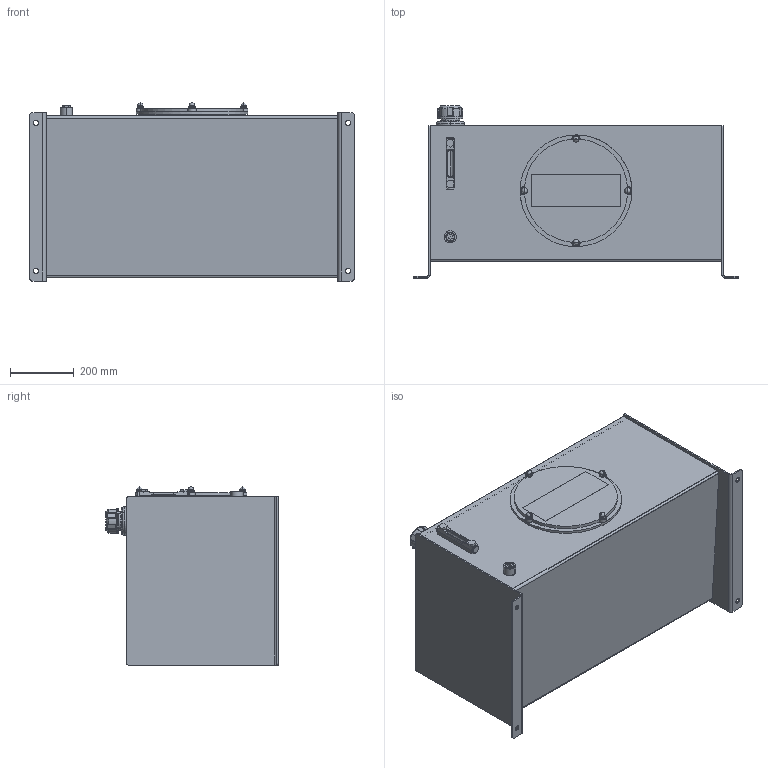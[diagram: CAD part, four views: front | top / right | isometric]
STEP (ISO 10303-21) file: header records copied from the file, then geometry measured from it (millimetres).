
FILE_DESCRIPTION (( 'STEP AP214' ), '1' );
FILE_NAME ('RDIN040-CFA.STEP', '2018-02-07T12:17:17', ( 'Windows User' ), ( '' ), 'SwSTEP 2.0', 'SolidWorks 2017', '' );
FILE_SCHEMA (( 'AUTOMOTIVE_DESIGN' ));
Length unit declared in the file: inch
Products named in the file (20): RDIN040-CFA; REC-M350C-4; BHS8100-15300-P_91280A634; RDIN040-CFA-REND; FB-S-W; RHJ-PLUG-016; RDIN040-CFA-TOP; RDIN040-CFA-BODY_RJIC020-BODY; FB-H008W; QSTSBUR00080008; Weld Riser; WFZM010; 8162-008-3_4534K45; FB-F008_FB-F-008; PLLG-05T; FB-C-H_FB-H008W; REC-M350K; RDIN040-CFA-LEND; S12; RHJ-PLUG-200
Assembly tree (26 placements, depth 3):
  RDIN040-CFA
    RDIN040-CFA-BODY_RJIC020-BODY
    RDIN040-CFA-LEND
    RDIN040-CFA-REND
    RDIN040-CFA-TOP
    Weld Riser
    FB-H008W
      FB-F008_FB-F-008
      FB-S-W
      FB-C-H_FB-H008W
    BHS8100-15300-P_91280A634  x4
    PLLG-05T
    REC-M350K
      REC-M350C-4
      WFZM010  x4
    S12
    8162-008-3_4534K45
    QSTSBUR00080008  x4
  RHJ-PLUG-016
  RHJ-PLUG-200
Bounding box: 1016 x 539.37 x 557.77 mm (x, y, z)
Volume: 9500826.1 mm3; surface area: 4829354.1 mm2
Topology: 31 solids, 31 shells, 1064 faces, 2510 edges, 1506 vertices
Faces by surface type: cylinder 389, plane 341, torus 102, cone 96, bspline 88, sphere 48
Entity records: 33168 total; most frequent: CARTESIAN_POINT 9412, DIRECTION 4889, ORIENTED_EDGE 4504, EDGE_CURVE 2252, AXIS2_PLACEMENT_3D 1974, VERTEX_POINT 1353, EDGE_LOOP 1087, CIRCLE 1069
